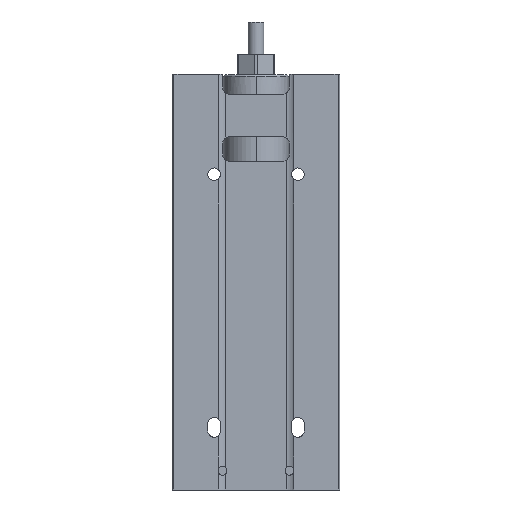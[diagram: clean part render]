
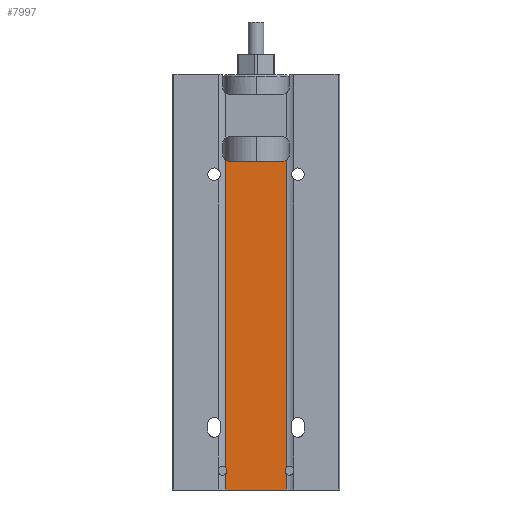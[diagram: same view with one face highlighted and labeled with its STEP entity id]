
A CAD part, front view. The second image highlights one B-rep face of the part: STEP entity #7997.
In plain terms, the highlighted planar face has unit normal (0, -1, 0).
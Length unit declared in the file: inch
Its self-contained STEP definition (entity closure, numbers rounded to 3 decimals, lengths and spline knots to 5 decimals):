
#60 = EDGE_CURVE ( 'NONE', #524, #6982, #9398, .T. ) ;
#105 = AXIS2_PLACEMENT_3D ( 'NONE', #6174, #5408, #394 ) ;
#320 = AXIS2_PLACEMENT_3D ( 'NONE', #5364, #3163, #2301 ) ;
#347 = EDGE_CURVE ( 'NONE', #7116, #4862, #1222, .T. ) ;
#372 = VECTOR ( 'NONE', #3709, 39.37008 ) ;
#394 = DIRECTION ( 'NONE',  ( 0., 0., 1. ) ) ;
#495 = CARTESIAN_POINT ( 'NONE',  ( 0., 0.03, 8.90592 ) ) ;
#524 = VERTEX_POINT ( 'NONE', #3783 ) ;
#584 = CARTESIAN_POINT ( 'NONE',  ( -0.36, 0.03, 5.1786 ) ) ;
#822 = LINE ( 'NONE', #3702, #5186 ) ;
#883 = EDGE_CURVE ( 'NONE', #6349, #6710, #822, .T. ) ;
#1120 = CARTESIAN_POINT ( 'NONE',  ( -0.36, 0.03, 5.55481 ) ) ;
#1165 = LINE ( 'NONE', #495, #4182 ) ;
#1222 = CIRCLE ( 'NONE', #5180, 0.09375 ) ;
#1488 = DIRECTION ( 'NONE',  ( 1., 0., 0. ) ) ;
#1570 = ORIENTED_EDGE ( 'NONE', *, *, #60, .F. ) ;
#1630 = FACE_OUTER_BOUND ( 'NONE', #2834, .T. ) ;
#2058 = CARTESIAN_POINT ( 'NONE',  ( -0.36, 0.03, 5.2489 ) ) ;
#2222 = CIRCLE ( 'NONE', #105, 0.05325 ) ;
#2295 = CARTESIAN_POINT ( 'NONE',  ( 0.36, 0.03, 4.98375 ) ) ;
#2301 = DIRECTION ( 'NONE',  ( 1., 0., 0. ) ) ;
#2421 = VECTOR ( 'NONE', #9223, 39.37008 ) ;
#2473 = CARTESIAN_POINT ( 'NONE',  ( 0.36, 0.03, 4.98375 ) ) ;
#2614 = ORIENTED_EDGE ( 'NONE', *, *, #3439, .F. ) ;
#2678 = VERTEX_POINT ( 'NONE', #3128 ) ;
#2734 = VERTEX_POINT ( 'NONE', #2058 ) ;
#2834 = EDGE_LOOP ( 'NONE', ( #9369, #5393, #4690, #3144, #4314, #7107, #2614, #1570, #5003, #7199 ) ) ;
#2930 = DIRECTION ( 'NONE',  ( 0., 0., 1. ) ) ;
#2977 = CARTESIAN_POINT ( 'NONE',  ( 0.36, 0.03, 5.09022 ) ) ;
#3031 = CARTESIAN_POINT ( 'NONE',  ( 0., 0.03, 4.98375 ) ) ;
#3092 = LINE ( 'NONE', #3816, #4154 ) ;
#3128 = CARTESIAN_POINT ( 'NONE',  ( 0.36, 0.03, 5.1786 ) ) ;
#3144 = ORIENTED_EDGE ( 'NONE', *, *, #5213, .T. ) ;
#3163 = DIRECTION ( 'NONE',  ( 0., -1., 0. ) ) ;
#3356 = DIRECTION ( 'NONE',  ( 0., 0., 1. ) ) ;
#3439 = EDGE_CURVE ( 'NONE', #6982, #6446, #3092, .T. ) ;
#3501 = DIRECTION ( 'NONE',  ( 0., -1., 0. ) ) ;
#3702 = CARTESIAN_POINT ( 'NONE',  ( -0.36, 0.03, 5.55481 ) ) ;
#3709 = DIRECTION ( 'NONE',  ( 1., 0., 0. ) ) ;
#3783 = CARTESIAN_POINT ( 'NONE',  ( 0.30625, 0.03, 8.90592 ) ) ;
#3786 = PLANE ( 'NONE',  #5888 ) ;
#3796 = CARTESIAN_POINT ( 'NONE',  ( 0.36, 0.03, 5.2489 ) ) ;
#3816 = CARTESIAN_POINT ( 'NONE',  ( 0.36, 0.03, 5.55481 ) ) ;
#4154 = VECTOR ( 'NONE', #7573, 39.37008 ) ;
#4182 = VECTOR ( 'NONE', #6998, 39.37008 ) ;
#4226 = CARTESIAN_POINT ( 'NONE',  ( -0.4, 0.03, 5.21375 ) ) ;
#4314 = ORIENTED_EDGE ( 'NONE', *, *, #5444, .F. ) ;
#4348 = AXIS2_PLACEMENT_3D ( 'NONE', #4226, #3501, #3356 ) ;
#4676 = CARTESIAN_POINT ( 'NONE',  ( -0.36, 0.03, 8.92285 ) ) ;
#4690 = ORIENTED_EDGE ( 'NONE', *, *, #883, .F. ) ;
#4862 = VERTEX_POINT ( 'NONE', #9219 ) ;
#4947 = EDGE_CURVE ( 'NONE', #524, #4862, #1165, .T. ) ;
#4959 = VECTOR ( 'NONE', #5983, 39.37008 ) ;
#5003 = ORIENTED_EDGE ( 'NONE', *, *, #4947, .T. ) ;
#5180 = AXIS2_PLACEMENT_3D ( 'NONE', #7969, #7266, #1488 ) ;
#5186 = VECTOR ( 'NONE', #2930, 39.37008 ) ;
#5213 = EDGE_CURVE ( 'NONE', #6349, #6915, #5905, .T. ) ;
#5364 = CARTESIAN_POINT ( 'NONE',  ( 0.30625, 0.03, 8.99967 ) ) ;
#5393 = ORIENTED_EDGE ( 'NONE', *, *, #6717, .F. ) ;
#5408 = DIRECTION ( 'NONE',  ( 0., -1., 0. ) ) ;
#5444 = EDGE_CURVE ( 'NONE', #2678, #6915, #8832, .T. ) ;
#5888 = AXIS2_PLACEMENT_3D ( 'NONE', #2295, #5892, #8071 ) ;
#5892 = DIRECTION ( 'NONE',  ( 0., 1., 0. ) ) ;
#5905 = LINE ( 'NONE', #3031, #372 ) ;
#5983 = DIRECTION ( 'NONE',  ( 0., 0., -1. ) ) ;
#6174 = CARTESIAN_POINT ( 'NONE',  ( 0.4, 0.03, 5.21375 ) ) ;
#6349 = VERTEX_POINT ( 'NONE', #9172 ) ;
#6446 = VERTEX_POINT ( 'NONE', #3796 ) ;
#6710 = VERTEX_POINT ( 'NONE', #584 ) ;
#6717 = EDGE_CURVE ( 'NONE', #6710, #2734, #8138, .T. ) ;
#6915 = VERTEX_POINT ( 'NONE', #2473 ) ;
#6982 = VERTEX_POINT ( 'NONE', #7015 ) ;
#6998 = DIRECTION ( 'NONE',  ( -1., 0., 0. ) ) ;
#7001 = LINE ( 'NONE', #1120, #2421 ) ;
#7015 = CARTESIAN_POINT ( 'NONE',  ( 0.36, 0.03, 8.92285 ) ) ;
#7107 = ORIENTED_EDGE ( 'NONE', *, *, #8095, .F. ) ;
#7116 = VERTEX_POINT ( 'NONE', #4676 ) ;
#7199 = ORIENTED_EDGE ( 'NONE', *, *, #347, .F. ) ;
#7266 = DIRECTION ( 'NONE',  ( 0., -1., 0. ) ) ;
#7573 = DIRECTION ( 'NONE',  ( 0., 0., -1. ) ) ;
#7969 = CARTESIAN_POINT ( 'NONE',  ( -0.30625, 0.03, 8.99967 ) ) ;
#7997 = ADVANCED_FACE ( 'NONE', ( #1630 ), #3786, .F. ) ;
#8071 = DIRECTION ( 'NONE',  ( -1., 0., 0. ) ) ;
#8095 = EDGE_CURVE ( 'NONE', #6446, #2678, #2222, .T. ) ;
#8138 = CIRCLE ( 'NONE', #4348, 0.05325 ) ;
#8832 = LINE ( 'NONE', #2977, #4959 ) ;
#9172 = CARTESIAN_POINT ( 'NONE',  ( -0.36, 0.03, 4.98375 ) ) ;
#9219 = CARTESIAN_POINT ( 'NONE',  ( -0.30625, 0.03, 8.90592 ) ) ;
#9223 = DIRECTION ( 'NONE',  ( 0., 0., 1. ) ) ;
#9277 = EDGE_CURVE ( 'NONE', #2734, #7116, #7001, .T. ) ;
#9369 = ORIENTED_EDGE ( 'NONE', *, *, #9277, .F. ) ;
#9398 = CIRCLE ( 'NONE', #320, 0.09375 ) ;
